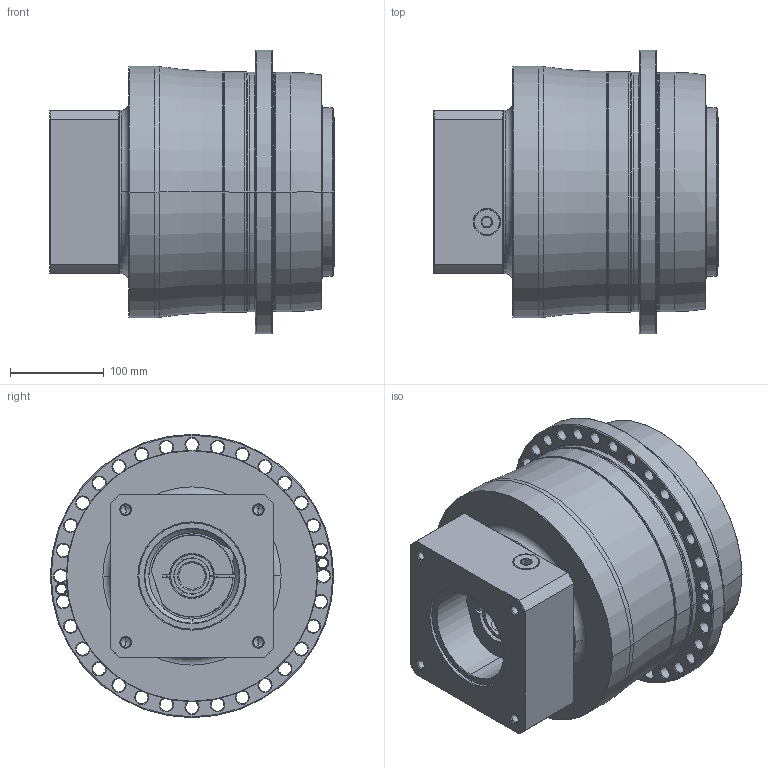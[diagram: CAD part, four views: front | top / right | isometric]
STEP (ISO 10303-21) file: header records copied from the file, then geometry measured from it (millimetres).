
FILE_DESCRIPTION((''),'2;1');
FILE_NAME('AP255_2ST_38-P0409910201_ASM','2018-05-30T',('d01226'),(''),'PRO/ENGINEER BY PARAMETRIC TECHNOLOGY CORPORATION, 2008410','PRO/ENGINEER BY PARAMETRIC TECHNOLOGY CORPORATION, 2008410','');
FILE_SCHEMA(('CONFIG_CONTROL_DESIGN'));
Length unit declared in the file: millimetre
Products named in the file (9): P0278701003; P0359701103; P1317710201; P0503900012; P0912652001; P1211700001; P0409910201; 21711422019; AP255_2ST_38-P0409910201_ASM
Assembly tree (8 placements, depth 2):
  AP255_2ST_38-P0409910201_ASM
    P0278701003
    P0359701103
    P1317710201
    P0503900012
    P0912652001
    P1211700001
    P0409910201
    21711422019
Bounding box: 303 x 302 x 302 mm (x, y, z)
Volume: 12191791.6 mm3; surface area: 808930.1 mm2
Topology: 9 solids, 32 shells, 681 faces, 1630 edges, 991 vertices
Faces by surface type: cylinder 274, cone 222, plane 100, torus 71, bspline 14
Entity records: 24857 total; most frequent: CARTESIAN_POINT 8195, DIRECTION 3843, ORIENTED_EDGE 3146, AXIS2_PLACEMENT_3D 1641, EDGE_CURVE 1620, VERTEX_POINT 991, CIRCLE 945, EDGE_LOOP 823
